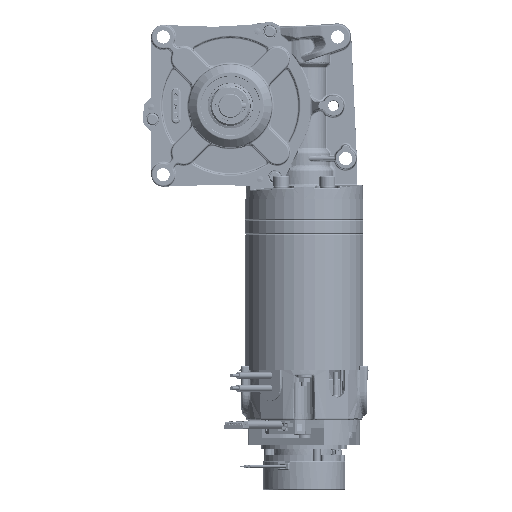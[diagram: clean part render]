
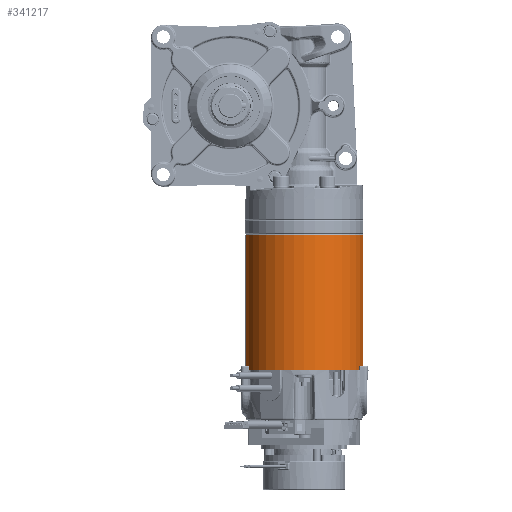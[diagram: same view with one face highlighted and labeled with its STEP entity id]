
A CAD part, left-side view. The second image highlights one B-rep face of the part: STEP entity #341217.
In plain terms, the highlighted cylindrical face has radius 37 mm (diameter 74 mm), a partial arc.
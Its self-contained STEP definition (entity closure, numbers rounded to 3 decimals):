
#10425 = DIRECTION ( 'NONE',  ( 0.175, -0.985, 0. ) ) ;
#12031 = CIRCLE ( 'NONE', #231496, 37. ) ;
#27409 = DIRECTION ( 'NONE',  ( 0., 0., -1. ) ) ;
#28408 = AXIS2_PLACEMENT_3D ( 'NONE', #402061, #275120, #406207 ) ;
#51405 = CARTESIAN_POINT ( 'NONE',  ( -126.805, -60.285, -64.816 ) ) ;
#64907 = DIRECTION ( 'NONE',  ( 0., 0., -1. ) ) ;
#80222 = CYLINDRICAL_SURFACE ( 'NONE', #156576, 37. ) ;
#84302 = VECTOR ( 'NONE', #27409, 1000. ) ;
#89837 = LINE ( 'NONE', #118986, #84302 ) ;
#101604 = EDGE_CURVE ( 'NONE', #278227, #123081, #89837, .T. ) ;
#106990 = ORIENTED_EDGE ( 'NONE', *, *, #171484, .T. ) ;
#118986 = CARTESIAN_POINT ( 'NONE',  ( -133.276, -23.855, 19.684 ) ) ;
#123081 = VERTEX_POINT ( 'NONE', #266780 ) ;
#128274 = CIRCLE ( 'NONE', #28408, 37. ) ;
#156576 = AXIS2_PLACEMENT_3D ( 'NONE', #220904, #64907, #379386 ) ;
#171484 = EDGE_CURVE ( 'NONE', #344453, #278227, #128274, .T. ) ;
#174696 = CARTESIAN_POINT ( 'NONE',  ( -120.334, -96.714, 19.184 ) ) ;
#187247 = ORIENTED_EDGE ( 'NONE', *, *, #101604, .T. ) ;
#204998 = FACE_OUTER_BOUND ( 'NONE', #366630, .T. ) ;
#209449 = VECTOR ( 'NONE', #395401, 1000. ) ;
#220904 = CARTESIAN_POINT ( 'NONE',  ( -126.805, -60.285, 19.684 ) ) ;
#226517 = VERTEX_POINT ( 'NONE', #303054 ) ;
#231496 = AXIS2_PLACEMENT_3D ( 'NONE', #51405, #305526, #10425 ) ;
#241156 = LINE ( 'NONE', #268358, #209449 ) ;
#249899 = EDGE_CURVE ( 'NONE', #123081, #226517, #12031, .T. ) ;
#266780 = CARTESIAN_POINT ( 'NONE',  ( -133.276, -23.855, -64.816 ) ) ;
#268358 = CARTESIAN_POINT ( 'NONE',  ( -120.334, -96.714, 19.684 ) ) ;
#275120 = DIRECTION ( 'NONE',  ( 0., 0., -1. ) ) ;
#278227 = VERTEX_POINT ( 'NONE', #296824 ) ;
#287763 = ORIENTED_EDGE ( 'NONE', *, *, #350526, .F. ) ;
#296824 = CARTESIAN_POINT ( 'NONE',  ( -133.276, -23.855, 19.184 ) ) ;
#303054 = CARTESIAN_POINT ( 'NONE',  ( -120.334, -96.714, -64.816 ) ) ;
#305526 = DIRECTION ( 'NONE',  ( 0., 0., 1. ) ) ;
#341217 = ADVANCED_FACE ( 'NONE', ( #204998 ), #80222, .T. ) ;
#344453 = VERTEX_POINT ( 'NONE', #174696 ) ;
#350526 = EDGE_CURVE ( 'NONE', #344453, #226517, #241156, .T. ) ;
#366630 = EDGE_LOOP ( 'NONE', ( #106990, #187247, #367248, #287763 ) ) ;
#367248 = ORIENTED_EDGE ( 'NONE', *, *, #249899, .T. ) ;
#379386 = DIRECTION ( 'NONE',  ( 0.175, -0.985, 0. ) ) ;
#395401 = DIRECTION ( 'NONE',  ( 0., 0., -1. ) ) ;
#402061 = CARTESIAN_POINT ( 'NONE',  ( -126.805, -60.285, 19.184 ) ) ;
#406207 = DIRECTION ( 'NONE',  ( 0.175, -0.985, 0. ) ) ;
